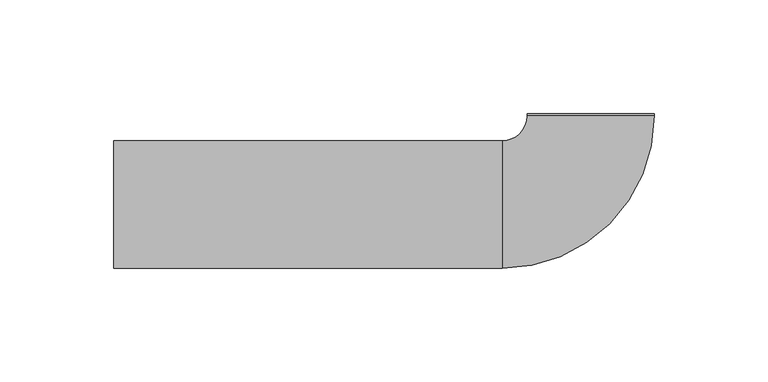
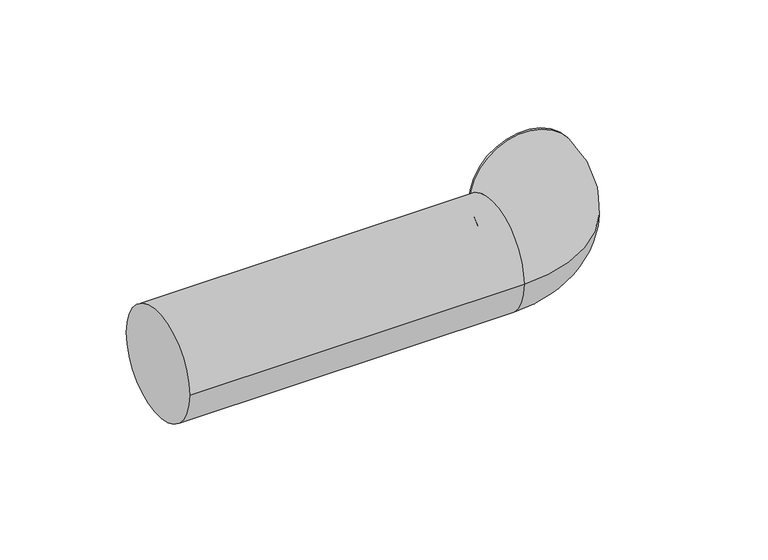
"""IFC4 building model written with IfcOpenShell, lengths in millimetres: pipe fitting geometry, NLRS_52_PIF_UN_PE bocht met lang been_PRO_101544_geb : DN30-150 / ø32-160 - OD."""

from ifc_helpers import new_model, si_unit, point, frame, origin, place, context, project, spatial, circle_curve, ellipse_curve, trimmed, source, transform, mapped, element, save
from ifc_brep_helpers import plane_surface, cylinder_surface, revolved_surface, advanced_brep


def pipe_fitting_9f7682d1(model_context):
    return source(origin(), model_context, "Body", "AdvancedBrep", [
        advanced_brep(
        [(-210.0, -28.0, 0.0), (-210.0, 28.0, 0.0), (-39.0, -28.0, 0.0), (-39.0, 28.0, 0.0), (-28.0, 39.0, 0.0), (28.0, 39.0, 0.0), (28.0, 40.0, 0.0), (-28.0, 40.0, 0.0)],
        [
            (0, 1, circle_curve(frame((-210.0, 0.0, 0.0), z_axis=(-1.0, 0.0, 0.0), x_axis=(0.0, 1.0, 0.0)), 28.0)),
            (1, 0, circle_curve(frame((-210.0, 0.0, 0.0), z_axis=(-1.0, 0.0, 0.0), x_axis=(0.0, 1.0, 0.0)), 28.0)),
            (0, 2),
            (2, 3, circle_curve(frame((-39.0, 0.0, 0.0), z_axis=(-1.0, 0.0, 0.0), x_axis=(0.0, 1.0, 0.0)), 28.0)),
            (3, 1),
            (3, 2, circle_curve(frame((-39.0, 0.0, 0.0), z_axis=(-1.0, 0.0, 0.0), x_axis=(0.0, 1.0, 0.0)), 28.0)),
            (4, 3, circle_curve(frame((-39.0, 39.0, 0.0), z_axis=(0.0, 0.0, -1.0), x_axis=(0.0, -1.0, 0.0)), 11.0)),
            (2, 5, circle_curve(frame((-39.0, 39.0, 0.0), z_axis=(0.0, 0.0, 1.0), x_axis=(0.0, -1.0, 0.0)), 67.0)),
            (5, 4, circle_curve(frame((0.0, 39.0, 0.0), z_axis=(0.0, -1.0, 0.0), x_axis=(-1.0, 0.0, 0.0)), 28.0)),
            (4, 5, circle_curve(frame((0.0, 39.0, 0.0), z_axis=(0.0, -1.0, 0.0), x_axis=(-1.0, 0.0, 0.0)), 28.0)),
            (6, 7, circle_curve(frame((0.0, 40.0, 0.0), z_axis=(0.0, 1.0, 0.0), x_axis=(-1.0, 0.0, 0.0)), 28.0)),
            (7, 6, circle_curve(frame((0.0, 40.0, 0.0), z_axis=(0.0, 1.0, 0.0), x_axis=(-1.0, 0.0, 0.0)), 28.0)),
            (5, 6),
            (7, 4),
        ],
        [
            plane_surface(frame((-210.0, 0.0, 0.0), z_axis=(-1.0, 0.0, 0.0), x_axis=(0.0, 0.0, 1.0))),
            cylinder_surface(frame((-210.0, 0.0, 0.0), z_axis=(-1.0, 0.0, 0.0), x_axis=(0.0, 1.0, 0.0)), 28.0),
            revolved_surface(trimmed(ellipse_curve(frame((-39.0, 0.0, 0.0), z_axis=(-1.0, 0.0, 0.0), x_axis=(0.0, 1.0, 0.0)), 28.0, 28.0), [point((-39.0, -28.0, 0.0))], [point((-39.0, 28.0, 0.0))], True, "CARTESIAN"), (-39.0, 39.0, 0.0), (0.0, 0.0, 1.0)),
            revolved_surface(trimmed(ellipse_curve(frame((-39.0, 0.0, 0.0), z_axis=(-1.0, 0.0, 0.0), x_axis=(0.0, 1.0, 0.0)), 28.0, 28.0), [point((-39.0, 28.0, 0.0))], [point((-39.0, -28.0, 0.0))], True, "CARTESIAN"), (-39.0, 39.0, 0.0), (0.0, 0.0, 1.0)),
            plane_surface(frame((0.0, 40.0, 0.0), z_axis=(0.0, 1.0, 0.0), x_axis=(0.0, 0.0, 1.0))),
            cylinder_surface(frame((0.0, 39.0, 0.0), z_axis=(0.0, -1.0, 0.0), x_axis=(-1.0, 0.0, 0.0)), 28.0),
        ],
        [
            (0, [[1, 2]]),
            (1, [[-1, 3, 4, 5]]),
            (1, [[-2, -5, 6, -3]]),
            (2, [[7, -4, 8, 9]]),
            (3, [[-8, -6, -7, 10]]),
            (4, [[11, 12]]),
            (5, [[-9, 13, -12, 14]]),
            (5, [[-10, -14, -11, -13]]),
        ],
    ),
    ])


if __name__ == "__main__":
    model = new_model("IFC4")
    model_context = context("Model", 3, world=origin())
    ifc_project = project(units=[si_unit("LENGTHUNIT", "METRE", prefix="MILLI")], contexts=[model_context])
    site = spatial("IfcSite", under=ifc_project)
    building = spatial("IfcBuilding", under=site)
    placement = place(None, origin())
    pipe_fitting_shape = pipe_fitting_9f7682d1(model_context)
    element("IfcPipeFitting", 1, ObjectType="NLRS_52_PIF_UN_PE bocht met lang been_PRO_101544_geb : DN30-150 / ø32-160 - OD", at=placement, inside=building, context=model_context, shape_type="MappedRepresentation", body=[
        mapped(pipe_fitting_shape, transform((0.0, 0.0, 0.0), x_axis=(1.0, 0.0, 0.0), y_axis=(0.0, 1.0, 0.0), z_axis=(0.0, 0.0, 1.0))),
    ])
    save(model, "model.ifc")
